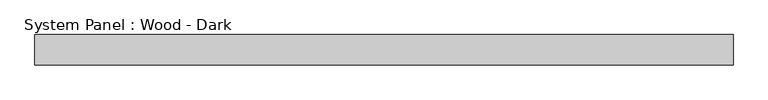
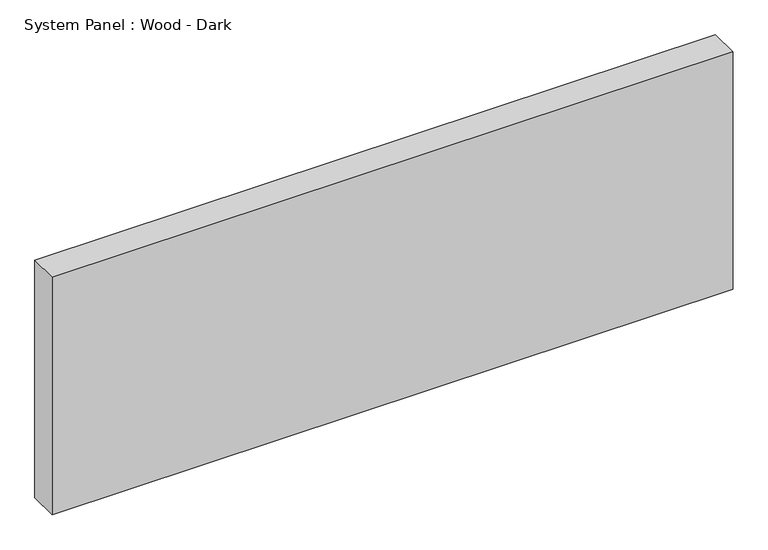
"""IFC4 building model written with IfcOpenShell, lengths in millimetres: plate geometry, System Panel : Wood - Dark."""

from ifc_helpers import new_model, si_unit, origin, origin_with_axes, place, context, project, spatial, polyline, outline, extrude, source, transform, mapped, element, save


def system_panel_wood_dark_5486a5ac(model_context):
    return source(origin(), model_context, "Body", "SweptSolid", [
        extrude(outline(polyline([(727.075, -44.45), (-727.075, -44.45), (-727.075, 19.05), (727.075, 19.05), (727.075, -44.45)])), origin_with_axes(), (0.0, 0.0, 1.0), 536.0475583),
    ])


if __name__ == "__main__":
    model = new_model("IFC4")
    model_context = context("Model", 3, world=origin())
    ifc_project = project(units=[si_unit("LENGTHUNIT", "METRE", prefix="MILLI")], contexts=[model_context])
    site = spatial("IfcSite", under=ifc_project)
    building = spatial("IfcBuilding", under=site)
    placement = place(None, origin())
    system_panel_wood_dark_shape = system_panel_wood_dark_5486a5ac(model_context)
    element("IfcPlate", 1, ObjectType="System Panel : Wood - Dark", at=placement, inside=building, context=model_context, shape_type="MappedRepresentation", body=[
        mapped(system_panel_wood_dark_shape, transform((0.0, 0.0, 0.0), x_axis=(1.0, 0.0, 0.0), y_axis=(0.0, 1.0, 0.0), z_axis=(0.0, 0.0, 1.0))),
    ])
    save(model, "model.ifc")
